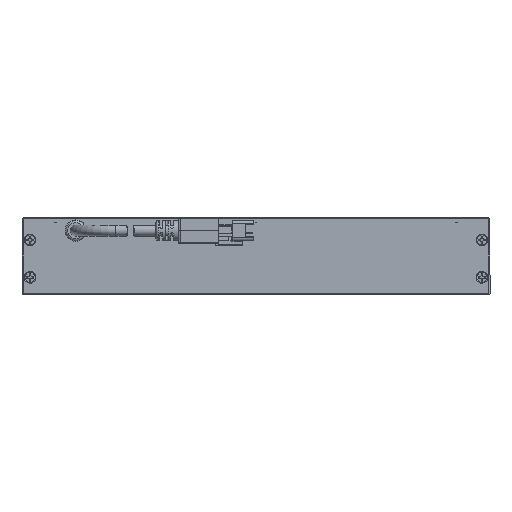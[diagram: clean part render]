
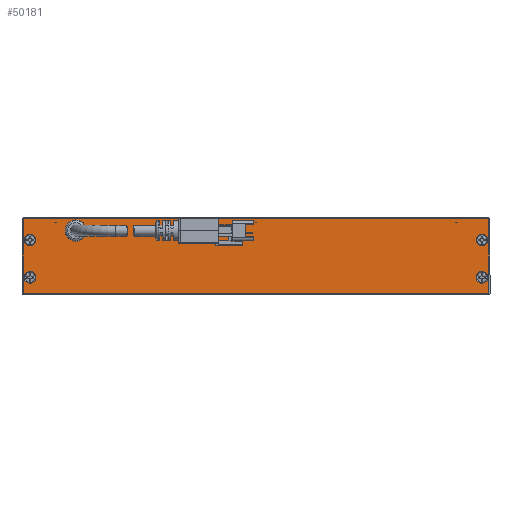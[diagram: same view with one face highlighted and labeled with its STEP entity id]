
A CAD part, front view. The second image highlights one B-rep face of the part: STEP entity #50181.
In plain terms, the highlighted planar face has unit normal (0, -1, 0).
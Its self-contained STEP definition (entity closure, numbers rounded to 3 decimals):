
#621 = VERTEX_POINT ( 'NONE', #17102 ) ;
#1541 = VERTEX_POINT ( 'NONE', #8955 ) ;
#2044 = CIRCLE ( 'NONE', #36008, 2.8 ) ;
#2415 = ORIENTED_EDGE ( 'NONE', *, *, #32303, .F. ) ;
#3108 = CARTESIAN_POINT ( 'NONE',  ( 84.5, -87.5, -20.5 ) ) ;
#3866 = CARTESIAN_POINT ( 'NONE',  ( -67.4, -87.5, -3. ) ) ;
#4028 = DIRECTION ( 'NONE',  ( -1., 0., 0. ) ) ;
#4237 = EDGE_LOOP ( 'NONE', ( #12095, #39158, #2415, #43645 ) ) ;
#4540 = EDGE_CURVE ( 'NONE', #41810, #41810, #50644, .T. ) ;
#5929 = LINE ( 'NONE', #34046, #48835 ) ;
#5946 = DIRECTION ( 'NONE',  ( 0., -1., 0. ) ) ;
#6075 = EDGE_LOOP ( 'NONE', ( #14135, #40764, #39432, #47274 ) ) ;
#7787 = EDGE_CURVE ( 'NONE', #40771, #41343, #17828, .T. ) ;
#8025 = CIRCLE ( 'NONE', #26107, 2.2 ) ;
#8955 = CARTESIAN_POINT ( 'NONE',  ( -64.6, -87.5, 0. ) ) ;
#10166 = CARTESIAN_POINT ( 'NONE',  ( 82.3, -87.5, -20.5 ) ) ;
#10228 = VERTEX_POINT ( 'NONE', #44999 ) ;
#10423 = EDGE_CURVE ( 'NONE', #23245, #23245, #52187, .T. ) ;
#11104 = VECTOR ( 'NONE', #18305, 1000. ) ;
#11376 = CARTESIAN_POINT ( 'NONE',  ( 84.5, -87.5, -6.5 ) ) ;
#11674 = DIRECTION ( 'NONE',  ( -1., 0., 0. ) ) ;
#11915 = EDGE_LOOP ( 'NONE', ( #25328 ) ) ;
#11974 = DIRECTION ( 'NONE',  ( 0., 0., 1. ) ) ;
#12095 = ORIENTED_EDGE ( 'NONE', *, *, #17154, .T. ) ;
#12995 = CARTESIAN_POINT ( 'NONE',  ( 87., -87.5, 1.5 ) ) ;
#13639 = EDGE_CURVE ( 'NONE', #10228, #1541, #5929, .T. ) ;
#14135 = ORIENTED_EDGE ( 'NONE', *, *, #7787, .T. ) ;
#14722 = LINE ( 'NONE', #45568, #35190 ) ;
#14824 = PLANE ( 'NONE',  #44793 ) ;
#14972 = LINE ( 'NONE', #46920, #11104 ) ;
#15336 = DIRECTION ( 'NONE',  ( 0., -1., 0. ) ) ;
#16271 = CARTESIAN_POINT ( 'NONE',  ( -64.6, -87.5, -3. ) ) ;
#17047 = EDGE_LOOP ( 'NONE', ( #49388 ) ) ;
#17102 = CARTESIAN_POINT ( 'NONE',  ( -87., -87.5, -26.5 ) ) ;
#17154 = EDGE_CURVE ( 'NONE', #44370, #10228, #14722, .T. ) ;
#17828 = LINE ( 'NONE', #41778, #33179 ) ;
#18305 = DIRECTION ( 'NONE',  ( 1., 0., 0. ) ) ;
#18751 = VERTEX_POINT ( 'NONE', #47892 ) ;
#18940 = AXIS2_PLACEMENT_3D ( 'NONE', #39575, #27429, #27610 ) ;
#19833 = EDGE_CURVE ( 'NONE', #621, #35003, #14972, .T. ) ;
#19920 = DIRECTION ( 'NONE',  ( 0., -1., 0. ) ) ;
#20279 = FACE_BOUND ( 'NONE', #37876, .T. ) ;
#20762 = CARTESIAN_POINT ( 'NONE',  ( -70.2, -87.5, -3. ) ) ;
#20954 = AXIS2_PLACEMENT_3D ( 'NONE', #3108, #19920, #11674 ) ;
#21070 = DIRECTION ( 'NONE',  ( 0., 0., 1. ) ) ;
#21490 = VECTOR ( 'NONE', #42981, 1000. ) ;
#22991 = VECTOR ( 'NONE', #11974, 1000. ) ;
#23149 = VERTEX_POINT ( 'NONE', #44307 ) ;
#23245 = VERTEX_POINT ( 'NONE', #10166 ) ;
#23334 = EDGE_CURVE ( 'NONE', #44370, #27997, #2044, .T. ) ;
#24043 = ORIENTED_EDGE ( 'NONE', *, *, #28125, .F. ) ;
#24049 = EDGE_LOOP ( 'NONE', ( #44701 ) ) ;
#24055 = DIRECTION ( 'NONE',  ( 0., -1., 0. ) ) ;
#24193 = DIRECTION ( 'NONE',  ( 0., 0., -1. ) ) ;
#25328 = ORIENTED_EDGE ( 'NONE', *, *, #4540, .F. ) ;
#26107 = AXIS2_PLACEMENT_3D ( 'NONE', #11376, #15336, #35711 ) ;
#26434 = CARTESIAN_POINT ( 'NONE',  ( -86.7, -87.5, -20.5 ) ) ;
#26735 = CARTESIAN_POINT ( 'NONE',  ( -87., -87.5, 1.5 ) ) ;
#27429 = DIRECTION ( 'NONE',  ( 0., -1., 0. ) ) ;
#27610 = DIRECTION ( 'NONE',  ( -1., 0., 0. ) ) ;
#27997 = VERTEX_POINT ( 'NONE', #47474 ) ;
#28125 = EDGE_CURVE ( 'NONE', #18751, #18751, #38202, .T. ) ;
#28730 = LINE ( 'NONE', #16271, #22991 ) ;
#30437 = CARTESIAN_POINT ( 'NONE',  ( -84.5, -87.5, -20.5 ) ) ;
#30637 = CARTESIAN_POINT ( 'NONE',  ( 87., -87.5, -26.5 ) ) ;
#31149 = FACE_BOUND ( 'NONE', #17047, .T. ) ;
#31269 = DIRECTION ( 'NONE',  ( 0., 1., 0. ) ) ;
#32303 = EDGE_CURVE ( 'NONE', #27997, #1541, #28730, .T. ) ;
#33179 = VECTOR ( 'NONE', #45547, 1000. ) ;
#34046 = CARTESIAN_POINT ( 'NONE',  ( -87.5, -87.5, 0. ) ) ;
#34996 = FACE_OUTER_BOUND ( 'NONE', #6075, .T. ) ;
#35003 = VERTEX_POINT ( 'NONE', #30637 ) ;
#35109 = CARTESIAN_POINT ( 'NONE',  ( 87., -87.5, 2. ) ) ;
#35190 = VECTOR ( 'NONE', #21070, 1000. ) ;
#35711 = DIRECTION ( 'NONE',  ( -1., 0., 0. ) ) ;
#35712 = EDGE_CURVE ( 'NONE', #35003, #40771, #39384, .T. ) ;
#36008 = AXIS2_PLACEMENT_3D ( 'NONE', #3866, #24055, #4028 ) ;
#36494 = VECTOR ( 'NONE', #24193, 1000. ) ;
#37876 = EDGE_LOOP ( 'NONE', ( #24043 ) ) ;
#38130 = DIRECTION ( 'NONE',  ( 1., 0., 0. ) ) ;
#38202 = CIRCLE ( 'NONE', #18940, 2.2 ) ;
#39158 = ORIENTED_EDGE ( 'NONE', *, *, #13639, .T. ) ;
#39384 = LINE ( 'NONE', #35109, #21490 ) ;
#39432 = ORIENTED_EDGE ( 'NONE', *, *, #19833, .T. ) ;
#39575 = CARTESIAN_POINT ( 'NONE',  ( -84.5, -87.5, -6.5 ) ) ;
#40764 = ORIENTED_EDGE ( 'NONE', *, *, #43694, .T. ) ;
#40771 = VERTEX_POINT ( 'NONE', #12995 ) ;
#41343 = VERTEX_POINT ( 'NONE', #26735 ) ;
#41778 = CARTESIAN_POINT ( 'NONE',  ( -87.5, -87.5, 1.5 ) ) ;
#41810 = VERTEX_POINT ( 'NONE', #26434 ) ;
#42003 = FACE_BOUND ( 'NONE', #4237, .T. ) ;
#42981 = DIRECTION ( 'NONE',  ( 0., 0., 1. ) ) ;
#43073 = CARTESIAN_POINT ( 'NONE',  ( -87.5, -87.5, 2. ) ) ;
#43645 = ORIENTED_EDGE ( 'NONE', *, *, #23334, .F. ) ;
#43694 = EDGE_CURVE ( 'NONE', #41343, #621, #47364, .T. ) ;
#44307 = CARTESIAN_POINT ( 'NONE',  ( 82.3, -87.5, -6.5 ) ) ;
#44370 = VERTEX_POINT ( 'NONE', #20762 ) ;
#44701 = ORIENTED_EDGE ( 'NONE', *, *, #10423, .F. ) ;
#44793 = AXIS2_PLACEMENT_3D ( 'NONE', #43073, #31269, #47371 ) ;
#44999 = CARTESIAN_POINT ( 'NONE',  ( -70.2, -87.5, 0. ) ) ;
#45547 = DIRECTION ( 'NONE',  ( -1., 0., 0. ) ) ;
#45568 = CARTESIAN_POINT ( 'NONE',  ( -70.2, -87.5, 0. ) ) ;
#46920 = CARTESIAN_POINT ( 'NONE',  ( -87.5, -87.5, -26.5 ) ) ;
#47259 = DIRECTION ( 'NONE',  ( -1., 0., 0. ) ) ;
#47274 = ORIENTED_EDGE ( 'NONE', *, *, #35712, .T. ) ;
#47364 = LINE ( 'NONE', #48693, #36494 ) ;
#47371 = DIRECTION ( 'NONE',  ( -1., 0., 0. ) ) ;
#47474 = CARTESIAN_POINT ( 'NONE',  ( -64.6, -87.5, -3. ) ) ;
#47892 = CARTESIAN_POINT ( 'NONE',  ( -86.7, -87.5, -6.5 ) ) ;
#48693 = CARTESIAN_POINT ( 'NONE',  ( -87., -87.5, 2. ) ) ;
#48835 = VECTOR ( 'NONE', #38130, 1000. ) ;
#49388 = ORIENTED_EDGE ( 'NONE', *, *, #51891, .F. ) ;
#49717 = FACE_BOUND ( 'NONE', #24049, .T. ) ;
#50181 = ADVANCED_FACE ( 'NONE', ( #42003, #34996, #49717, #31149, #20279, #50980 ), #14824, .F. ) ;
#50644 = CIRCLE ( 'NONE', #51640, 2.2 ) ;
#50980 = FACE_BOUND ( 'NONE', #11915, .T. ) ;
#51640 = AXIS2_PLACEMENT_3D ( 'NONE', #30437, #5946, #47259 ) ;
#51891 = EDGE_CURVE ( 'NONE', #23149, #23149, #8025, .T. ) ;
#52187 = CIRCLE ( 'NONE', #20954, 2.2 ) ;
